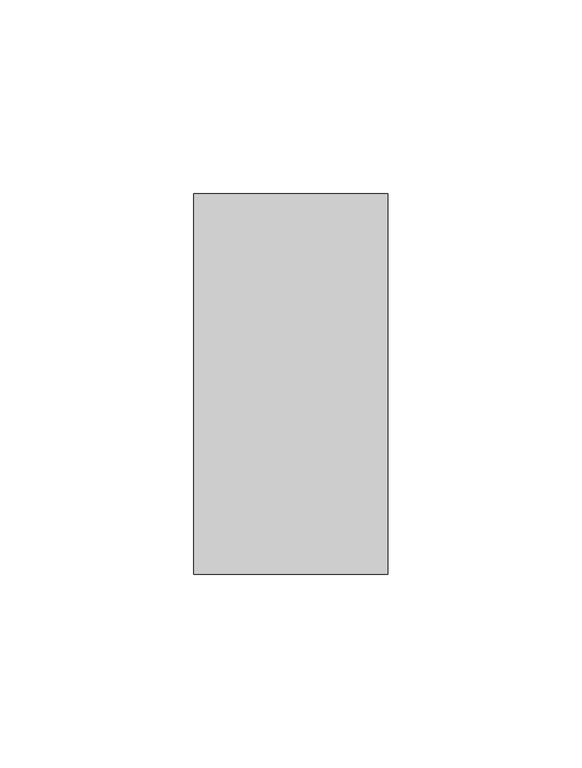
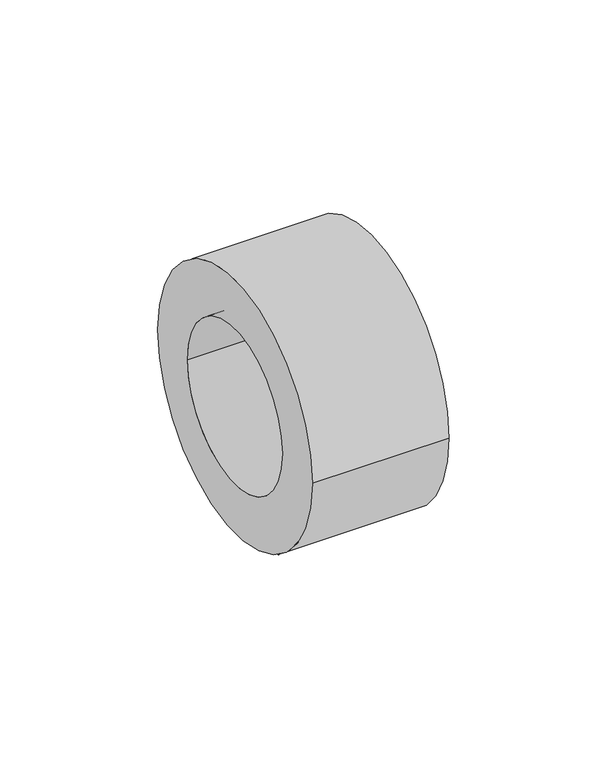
"""IFC4 building model written with IfcOpenShell, lengths in millimetres: pipe fitting geometry, СТ_Подвесы_ДляТруб_IsotermSM_D10-325_СимфонияТепла : Isoterm SM 19-60."""

import ifcopenshell
import ifcopenshell.guid

model = None  # the IFC model being written
_history = None  # IfcOwnerHistory: only IFC2X3 demands one
_inside = {}  # id of a spatial element -> (the spatial element, [elements in it])
_under = {}  # id of a project, library or spatial element -> (it, [spatial elements below it])
_declared = {}  # id of a project -> (the project, [libraries it declares])
_typed = {}  # id of a type object -> (the type object, [elements of that type])
_made_of = {}  # id of a material, layer set ... -> (it, [elements and type objects made of it])


def new_model(schema):
    """Start an empty IFC model of exactly this schema.

    Asked for "IFC4X3", IfcOpenShell would pick the latest addendum, in which some entities
    have other attributes; the version numbers below select the first issue.
    IFC2X3 requires an IfcOwnerHistory on every rooted entity: one is made here for all.
    """
    global model, _history
    if schema == "IFC4X3":
        model = ifcopenshell.file(schema_version=(4, 3, 0, 0))
    else:
        model = ifcopenshell.file(schema=schema)
    _inside.clear()
    _under.clear()
    _declared.clear()
    _typed.clear()
    _made_of.clear()
    _history = None
    if model.schema == "IFC2X3":
        org = make("IfcOrganization", Name="unknown")
        user = make(
            "IfcPersonAndOrganization",
            ThePerson=make("IfcPerson", FamilyName="unknown"),
            TheOrganization=org,
        )
        app = make(
            "IfcApplication",
            ApplicationDeveloper=org,
            Version="unknown",
            ApplicationFullName="unknown",
            ApplicationIdentifier="unknown",
        )
        _history = make(
            "IfcOwnerHistory",
            OwningUser=user,
            OwningApplication=app,
            ChangeAction="ADDED",
            CreationDate=0,
        )
    return model


def make(cls, **values):
    """One entity of the class cls with the attributes given. An attribute that is None is left unset."""
    return model.create_entity(
        cls, **{name: value for name, value in values.items() if value is not None}
    )


def rooted(cls, **values):
    """An entity with a GlobalId (a new one), such as an element, a storey or a relation."""
    return make(cls, GlobalId=ifcopenshell.guid.new(), OwnerHistory=_history, **values)


def si_unit(unit_type, name, prefix=None):
    """IfcSIUnit, for example si_unit("LENGTHUNIT", "METRE", prefix="MILLI")."""
    return make("IfcSIUnit", UnitType=unit_type, Prefix=prefix, Name=name)


def assignment(units):
    """IfcUnitAssignment: the units of a project."""
    return None if units is None else make("IfcUnitAssignment", Units=units)


def point(xyz):
    """IfcCartesianPoint."""
    return None if xyz is None else make("IfcCartesianPoint", Coordinates=xyz)


def direction(xyz):
    """IfcDirection."""
    return None if xyz is None else make("IfcDirection", DirectionRatios=xyz)


def frame(location, z_axis=None, x_axis=None):
    """IfcAxis2Placement3D, a coordinate frame: its origin and axes. An axis left out is left unset."""
    return make(
        "IfcAxis2Placement3D",
        Location=point(location),
        Axis=direction(z_axis),
        RefDirection=direction(x_axis),
    )


def frame_2d(location, x_axis=None):
    """IfcAxis2Placement2D, a coordinate frame in the plane: its origin and x axis."""
    return make(
        "IfcAxis2Placement2D", Location=point(location), RefDirection=direction(x_axis)
    )


def origin():
    """The frame at (0, 0, 0) with its axes left unset."""
    return frame((0.0, 0.0, 0.0))


def origin_2d():
    """The frame at (0, 0) in the plane with its x axis left unset."""
    return frame_2d((0.0, 0.0))


def place(relative_to, where):
    """IfcLocalPlacement: puts the frame where relative to a parent placement (None: the world)."""
    return make(
        "IfcLocalPlacement", PlacementRelTo=relative_to, RelativePlacement=where
    )


def context(
    kind, dimensions, precision=None, world=None, true_north=None, identifier=None
):
    """IfcGeometricRepresentationContext, for example the 3D "Model" context."""
    return make(
        "IfcGeometricRepresentationContext",
        ContextIdentifier=identifier,
        ContextType=kind,
        CoordinateSpaceDimension=dimensions,
        Precision=precision,
        WorldCoordinateSystem=world,
        TrueNorth=true_north,
    )


def project(units=None, contexts=None):
    """IfcProject with its units and contexts."""
    return rooted(
        "IfcProject",
        Name="project",
        RepresentationContexts=contexts,
        UnitsInContext=assignment(units),
    )


def spatial(cls, under=None, at=None, **own):
    """A site, building, storey or space (cls), placed at a placement, below another one or the project."""
    s = rooted(cls, ObjectPlacement=at, **own)
    if under is not None:
        _under.setdefault(under.id(), (under, []))[1].append(s)
    return s


def circle_curve(where, radius):
    """IfcCircle in the frame where."""
    return make("IfcCircle", Position=where, Radius=radius)


def trimmed(basis, trim1, trim2, sense, master):
    """IfcTrimmedCurve: the piece of a basis curve between two trims."""
    return make(
        "IfcTrimmedCurve",
        BasisCurve=basis,
        Trim1=trim1,
        Trim2=trim2,
        SenseAgreement=sense,
        MasterRepresentation=master,
    )


def segment(curve, same_sense, transition):
    """IfcCompositeCurveSegment."""
    return make(
        "IfcCompositeCurveSegment",
        Transition=transition,
        SameSense=same_sense,
        ParentCurve=curve,
    )


def composite_curve(segments, self_intersect=None):
    """IfcCompositeCurve: segments joined end to end."""
    return make("IfcCompositeCurve", Segments=segments, SelfIntersect=self_intersect)


def outline(outer, holes=None, kind="AREA"):
    """IfcArbitraryClosedProfileDef: a profile drawn as a closed curve; with holes, ...WithVoids."""
    if holes is None:
        return make("IfcArbitraryClosedProfileDef", ProfileType=kind, OuterCurve=outer)
    return make(
        "IfcArbitraryProfileDefWithVoids",
        ProfileType=kind,
        OuterCurve=outer,
        InnerCurves=holes,
    )


def extrude(swept, where, along, depth):
    """IfcExtrudedAreaSolid: the profile swept, set in the frame where, extruded along a direction by depth."""
    return make(
        "IfcExtrudedAreaSolid",
        SweptArea=swept,
        Position=where,
        ExtrudedDirection=direction(along),
        Depth=depth,
    )


def shape(context_of_items, identifier, shape_type, items):
    """IfcShapeRepresentation: the items that make up one representation, for example the "Body"."""
    return make(
        "IfcShapeRepresentation",
        ContextOfItems=context_of_items,
        RepresentationIdentifier=identifier,
        RepresentationType=shape_type,
        Items=items,
    )


def source(mapping_origin, context_of_items, identifier, shape_type, items):
    """IfcRepresentationMap: a shape defined once, which mapped items show again and again."""
    return make(
        "IfcRepresentationMap",
        MappingOrigin=mapping_origin,
        MappedRepresentation=shape(context_of_items, identifier, shape_type, items),
    )


def transform(
    local_origin,
    x_axis=None,
    y_axis=None,
    z_axis=None,
    scale=None,
    scale2=None,
    scale3=None,
    uniform=True,
):
    """IfcCartesianTransformationOperator3D, or its non-uniform kind. x_axis, y_axis, z_axis: its Axis1, 2, 3."""
    if uniform:
        return make(
            "IfcCartesianTransformationOperator3D",
            Axis1=direction(x_axis),
            Axis2=direction(y_axis),
            LocalOrigin=point(local_origin),
            Scale=scale,
            Axis3=direction(z_axis),
        )
    return make(
        "IfcCartesianTransformationOperator3DnonUniform",
        Axis1=direction(x_axis),
        Axis2=direction(y_axis),
        LocalOrigin=point(local_origin),
        Scale=scale,
        Axis3=direction(z_axis),
        Scale2=scale2,
        Scale3=scale3,
    )


def mapped(mapping_source, mapping_target):
    """IfcMappedItem: shows the shape of a source again, moved by a transform."""
    return make(
        "IfcMappedItem", MappingSource=mapping_source, MappingTarget=mapping_target
    )


def made_of(thing, what):
    """Note that an element or type object is made of a material, layer set ...; save() writes the relation."""
    if what is not None:
        _made_of.setdefault(what.id(), (what, []))[1].append(thing)
    return thing


def element(
    cls,
    number,
    at=None,
    inside=None,
    cuts=None,
    type_object=None,
    material=None,
    context=None,
    identifier="Body",
    shape_type=None,
    held_by="IfcProductDefinitionShape",
    body=None,
    shapes=None,
    **own,
):
    """One element of the class cls, such as IfcWall. Its Tag is "e" and its number.

    at: its placement. inside: the storey or other place that contains it. cuts: it is an
    opening in that element (IfcRelVoidsElement). A single representation is given by context,
    identifier, shape_type and body (its items); several are given by shapes. held_by: the class
    of the entity that holds the representations. save() writes the other relations.
    """
    e = rooted(cls, Tag="e%d" % number, ObjectPlacement=at, **own)
    if body is not None:
        shapes = [shape(context, identifier, shape_type, body)]
    if shapes is not None:
        e.Representation = make(held_by, Representations=shapes)
    if inside is not None:
        _inside.setdefault(inside.id(), (inside, []))[1].append(e)
    if cuts is not None:
        rooted(
            "IfcRelVoidsElement", RelatingBuildingElement=cuts, RelatedOpeningElement=e
        )
    if type_object is not None:
        _typed.setdefault(type_object.id(), (type_object, []))[1].append(e)
    return made_of(e, material)


def aggregate(whole, parts):
    """IfcRelAggregates: a whole, such as a stair, and the parts it consists of."""
    return rooted("IfcRelAggregates", RelatingObject=whole, RelatedObjects=parts)


def save(model, path):
    """Write the relations noted so far, then the file.

    IfcRelAggregates (storeys below a building ...), IfcRelContainedInSpatialStructure (elements
    in a storey), IfcRelDefinesByType, IfcRelAssociatesMaterial and IfcRelDeclares: one each for
    every whole, place, type object, material and project.
    """
    for whole, parts in _under.values():
        aggregate(whole, parts)
    for where, things in _inside.values():
        rooted(
            "IfcRelContainedInSpatialStructure",
            RelatedElements=things,
            RelatingStructure=where,
        )
    for kind, things in _typed.values():
        rooted("IfcRelDefinesByType", RelatedObjects=things, RelatingType=kind)
    for what, things in _made_of.values():
        rooted("IfcRelAssociatesMaterial", RelatedObjects=things, RelatingMaterial=what)
    for by, libraries in _declared.values():
        rooted("IfcRelDeclares", RelatingContext=by, RelatedDefinitions=libraries)
    model.write(path)


def pipe_fitting_dd198770(model_context):
    return source(origin(), model_context, "Body", "SweptSolid", [
        extrude(outline(composite_curve([segment(trimmed(circle_curve(origin_2d(), 49.0), [point((-49.0, 0.0))], [point((49.0, 0.0))], False, "CARTESIAN"), True, "CONTINUOUS"), segment(trimmed(circle_curve(origin_2d(), 49.0), [point((49.0, 0.0))], [point((-49.0, 0.0))], False, "CARTESIAN"), True, "CONTINUOUS")], self_intersect=False), holes=[composite_curve([segment(trimmed(circle_curve(origin_2d(), 30.0), [point((-30.0, 0.0))], [point((30.0, 0.0))], True, "CARTESIAN"), True, "CONTINUOUS"), segment(trimmed(circle_curve(origin_2d(), 30.0), [point((30.0, 0.0))], [point((-30.0, 0.0))], True, "CARTESIAN"), True, "CONTINUOUS")], self_intersect=False)]), frame((-25.0, 0.0, 0.0), z_axis=(1.0, 0.0, 0.0), x_axis=(0.0, 1.0, 0.0)), (0.0, 0.0, 1.0), 50.0),
    ])


if __name__ == "__main__":
    model = new_model("IFC4")
    model_context = context("Model", 3, world=origin())
    ifc_project = project(units=[si_unit("LENGTHUNIT", "METRE", prefix="MILLI")], contexts=[model_context])
    site = spatial("IfcSite", under=ifc_project)
    building = spatial("IfcBuilding", under=site)
    placement = place(None, origin())
    pipe_fitting_shape = pipe_fitting_dd198770(model_context)
    element("IfcPipeFitting", 1, ObjectType="СТ_Подвесы_ДляТруб_IsotermSM_D10-325_СимфонияТепла : Isoterm SM 19-60", at=placement, inside=building, context=model_context, shape_type="MappedRepresentation", body=[
        mapped(pipe_fitting_shape, transform((0.0, 0.0, 0.0), x_axis=(1.0, 0.0, 0.0), y_axis=(0.0, 1.0, 0.0), z_axis=(0.0, 0.0, 1.0))),
    ])
    save(model, "model.ifc")
